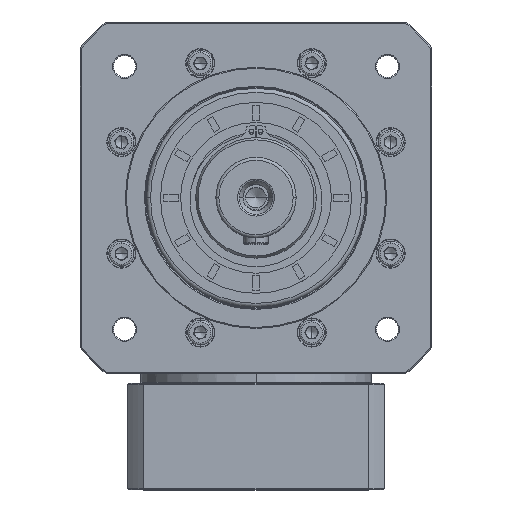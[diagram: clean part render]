
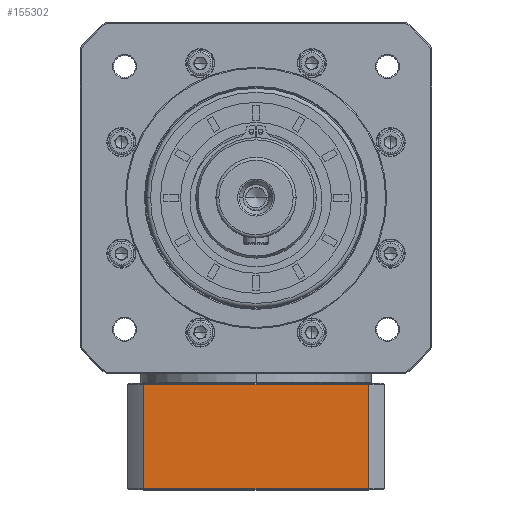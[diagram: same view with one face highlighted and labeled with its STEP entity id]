
A CAD part, top view. The second image highlights one B-rep face of the part: STEP entity #155302.
In plain terms, the highlighted planar face has unit normal (0, 0, 1).
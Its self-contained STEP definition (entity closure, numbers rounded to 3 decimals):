
#62 = ORIENTED_EDGE ( 'NONE', *, *, #22272, .F. ) ;
#1462 = VECTOR ( 'NONE', #112170, 1000. ) ;
#11867 = CARTESIAN_POINT ( 'NONE',  ( -149.409, -116.393, 100.267 ) ) ;
#22272 = EDGE_CURVE ( 'NONE', #59265, #47270, #93006, .T. ) ;
#27493 = DIRECTION ( 'NONE',  ( -1., 0., 0. ) ) ;
#34631 = LINE ( 'NONE', #109447, #1462 ) ;
#47270 = VERTEX_POINT ( 'NONE', #11867 ) ;
#51209 = ORIENTED_EDGE ( 'NONE', *, *, #134448, .F. ) ;
#58553 = ORIENTED_EDGE ( 'NONE', *, *, #73681, .F. ) ;
#59265 = VERTEX_POINT ( 'NONE', #77863 ) ;
#72079 = PLANE ( 'NONE',  #155220 ) ;
#72608 = VECTOR ( 'NONE', #27493, 1000. ) ;
#73681 = EDGE_CURVE ( 'NONE', #47270, #152681, #100913, .T. ) ;
#76583 = LINE ( 'NONE', #90784, #72608 ) ;
#77863 = CARTESIAN_POINT ( 'NONE',  ( -261.284, -116.393, 100.267 ) ) ;
#82587 = ORIENTED_EDGE ( 'NONE', *, *, #146271, .F. ) ;
#84056 = DIRECTION ( 'NONE',  ( 0., 0., -1. ) ) ;
#90541 = DIRECTION ( 'NONE',  ( 1., 0., 0. ) ) ;
#90784 = CARTESIAN_POINT ( 'NONE',  ( -269.346, -168.393, 100.267 ) ) ;
#92504 = CARTESIAN_POINT ( 'NONE',  ( -149.409, -168.393, 100.267 ) ) ;
#93006 = LINE ( 'NONE', #153745, #104703 ) ;
#93080 = VECTOR ( 'NONE', #94567, 1000. ) ;
#94436 = CARTESIAN_POINT ( 'NONE',  ( -261.284, -168.393, 100.267 ) ) ;
#94567 = DIRECTION ( 'NONE',  ( 0., -1., 0. ) ) ;
#94977 = CARTESIAN_POINT ( 'NONE',  ( -269.346, -168.893, 100.267 ) ) ;
#95113 = CARTESIAN_POINT ( 'NONE',  ( -149.409, 126.928, 100.267 ) ) ;
#100913 = LINE ( 'NONE', #95113, #93080 ) ;
#104703 = VECTOR ( 'NONE', #90541, 1000. ) ;
#109447 = CARTESIAN_POINT ( 'NONE',  ( -261.284, -168.893, 100.267 ) ) ;
#109961 = FACE_OUTER_BOUND ( 'NONE', #110722, .T. ) ;
#110722 = EDGE_LOOP ( 'NONE', ( #58553, #62, #51209, #82587 ) ) ;
#112170 = DIRECTION ( 'NONE',  ( 0., 1., 0. ) ) ;
#121639 = DIRECTION ( 'NONE',  ( -1., 0., 0. ) ) ;
#133546 = VERTEX_POINT ( 'NONE', #94436 ) ;
#134448 = EDGE_CURVE ( 'NONE', #133546, #59265, #34631, .T. ) ;
#146271 = EDGE_CURVE ( 'NONE', #152681, #133546, #76583, .T. ) ;
#152681 = VERTEX_POINT ( 'NONE', #92504 ) ;
#153745 = CARTESIAN_POINT ( 'NONE',  ( -269.346, -116.393, 100.267 ) ) ;
#155220 = AXIS2_PLACEMENT_3D ( 'NONE', #94977, #84056, #121639 ) ;
#155302 = ADVANCED_FACE ( 'NONE', ( #109961 ), #72079, .F. ) ;
